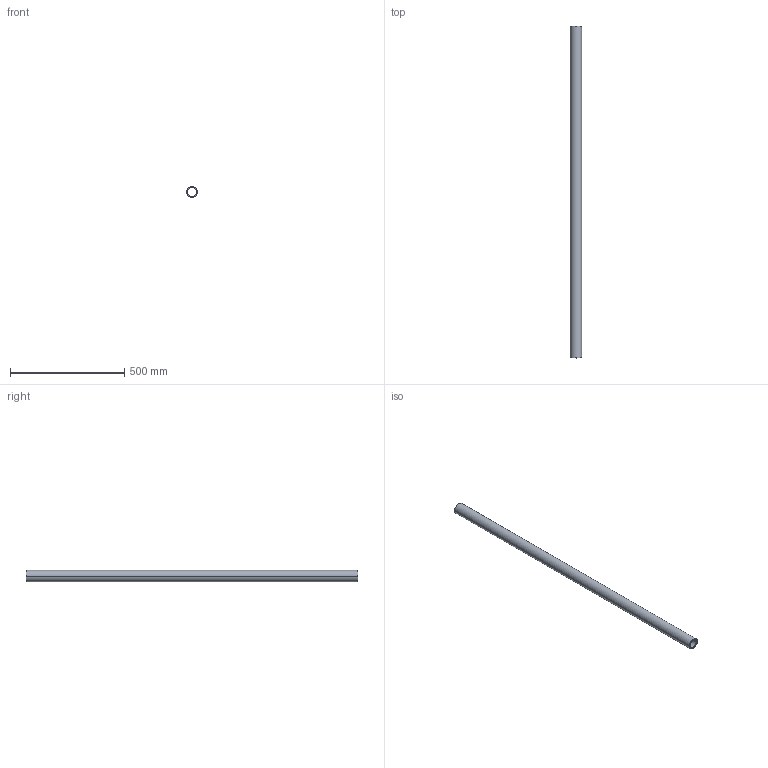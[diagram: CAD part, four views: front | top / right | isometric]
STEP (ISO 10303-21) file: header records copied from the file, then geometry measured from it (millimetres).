
FILE_DESCRIPTION (( 'STEP AP203' ), '1' );
FILE_NAME ('RAILEX STANDARD RXR-MR.STEP', '2021-06-17T14:52:39', ( '' ), ( '' ), 'SwSTEP 2.0', 'SolidWorks 2020', '' );
FILE_SCHEMA (( 'CONFIG_CONTROL_DESIGN' ));
Length unit declared in the file: millimetre
Products named in the file (1): RAILEX STANDARD RXR-MR
Bounding box: 50 x 1450 x 50 mm (x, y, z)
Volume: 1271113.5 mm3; surface area: 398976.2 mm2
Topology: 1 solids, 1 shells, 6 faces, 12 edges, 8 vertices
Faces by surface type: cylinder 4, plane 2
Entity records: 245 total; most frequent: DIRECTION 34, CARTESIAN_POINT 27, ORIENTED_EDGE 24, AXIS2_PLACEMENT_3D 15, EDGE_CURVE 12, CIRCLE 8, PERSON_AND_ORGANIZATION 8, EDGE_LOOP 8
